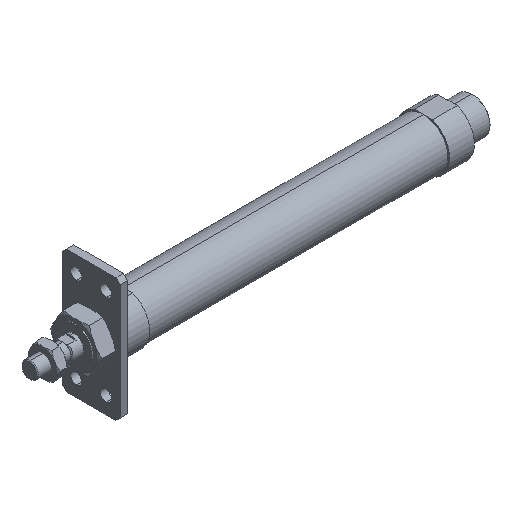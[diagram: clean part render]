
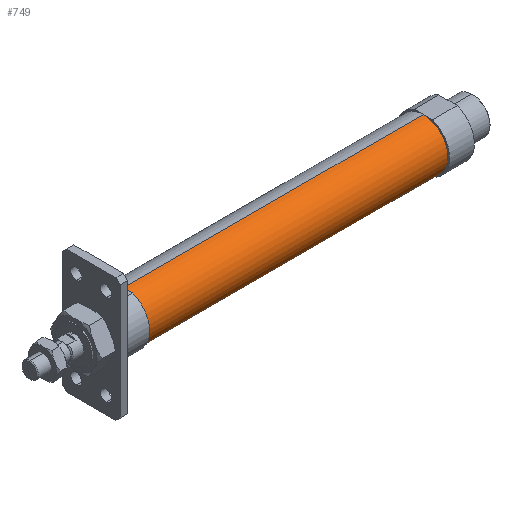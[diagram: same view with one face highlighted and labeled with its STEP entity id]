
A CAD part, isometric view. The second image highlights one B-rep face of the part: STEP entity #749.
In plain terms, the highlighted cylindrical face has radius 15 mm (diameter 30 mm), a partial arc.
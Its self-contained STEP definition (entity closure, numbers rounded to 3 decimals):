
#148 = DIRECTION ( 'NONE',  ( 0., 0., 1. ) ) ;
#191 = ORIENTED_EDGE ( 'NONE', *, *, #1425, .T. ) ;
#208 = VERTEX_POINT ( 'NONE', #2937 ) ;
#364 = DIRECTION ( 'NONE',  ( 0., 0., 1. ) ) ;
#416 = CARTESIAN_POINT ( 'NONE',  ( -6.469, 0., 0. ) ) ;
#418 = EDGE_CURVE ( 'NONE', #1191, #208, #1436, .T. ) ;
#622 = VERTEX_POINT ( 'NONE', #3729 ) ;
#677 = CARTESIAN_POINT ( 'NONE',  ( 239., 0., -15. ) ) ;
#749 = ADVANCED_FACE ( 'NONE', ( #3696 ), #1899, .T. ) ;
#796 = VECTOR ( 'NONE', #3424, 1000. ) ;
#903 = EDGE_CURVE ( 'NONE', #208, #622, #3468, .T. ) ;
#950 = VECTOR ( 'NONE', #2811, 1000. ) ;
#1050 = CARTESIAN_POINT ( 'NONE',  ( -6.469, 0., 15. ) ) ;
#1191 = VERTEX_POINT ( 'NONE', #677 ) ;
#1247 = EDGE_CURVE ( 'NONE', #1191, #2176, #3843, .T. ) ;
#1322 = CARTESIAN_POINT ( 'NONE',  ( 57., 0., 0. ) ) ;
#1373 = DIRECTION ( 'NONE',  ( -1., 0., 0. ) ) ;
#1425 = EDGE_CURVE ( 'NONE', #2176, #622, #2893, .T. ) ;
#1436 = LINE ( 'NONE', #3826, #950 ) ;
#1567 = AXIS2_PLACEMENT_3D ( 'NONE', #1322, #3771, #148 ) ;
#1724 = ORIENTED_EDGE ( 'NONE', *, *, #1247, .T. ) ;
#1736 = DIRECTION ( 'NONE',  ( 0., 0., 1. ) ) ;
#1899 = CYLINDRICAL_SURFACE ( 'NONE', #2881, 15. ) ;
#2086 = CARTESIAN_POINT ( 'NONE',  ( 239., 0., 15. ) ) ;
#2176 = VERTEX_POINT ( 'NONE', #2086 ) ;
#2603 = AXIS2_PLACEMENT_3D ( 'NONE', #4104, #1373, #364 ) ;
#2747 = DIRECTION ( 'NONE',  ( -1., 0., 0. ) ) ;
#2811 = DIRECTION ( 'NONE',  ( -1., 0., 0. ) ) ;
#2881 = AXIS2_PLACEMENT_3D ( 'NONE', #416, #2747, #1736 ) ;
#2893 = LINE ( 'NONE', #1050, #796 ) ;
#2937 = CARTESIAN_POINT ( 'NONE',  ( 57., 0., -15. ) ) ;
#3010 = ORIENTED_EDGE ( 'NONE', *, *, #903, .F. ) ;
#3319 = ORIENTED_EDGE ( 'NONE', *, *, #418, .F. ) ;
#3424 = DIRECTION ( 'NONE',  ( -1., 0., 0. ) ) ;
#3468 = CIRCLE ( 'NONE', #1567, 15. ) ;
#3603 = EDGE_LOOP ( 'NONE', ( #3319, #1724, #191, #3010 ) ) ;
#3696 = FACE_OUTER_BOUND ( 'NONE', #3603, .T. ) ;
#3729 = CARTESIAN_POINT ( 'NONE',  ( 57., 0., 15. ) ) ;
#3771 = DIRECTION ( 'NONE',  ( -1., 0., 0. ) ) ;
#3826 = CARTESIAN_POINT ( 'NONE',  ( -6.469, 0., -15. ) ) ;
#3843 = CIRCLE ( 'NONE', #2603, 15. ) ;
#4104 = CARTESIAN_POINT ( 'NONE',  ( 239., 0., 0. ) ) ;
